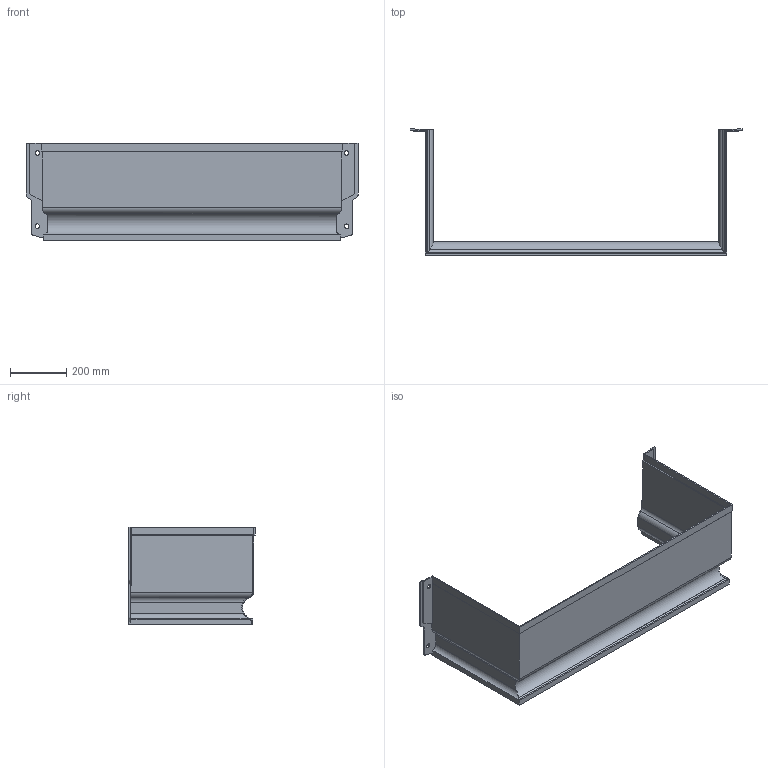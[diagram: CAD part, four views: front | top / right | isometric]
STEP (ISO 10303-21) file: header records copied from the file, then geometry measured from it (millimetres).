
FILE_DESCRIPTION(/* description */ (''),/* implementation_level */ '2;1');
FILE_NAME(/* name */ 'Q:\sge-bs-neu-2008\Marketing\CAD Zeichnungen\3D-CAD-Daten\3D Daten Website\- MEA Multinorm Aufsatz Kunststofflichtschacht_\Step\MEA_MULTINORM_Aufsatz_100x35x40.stp',/* time_stamp */ '2019-02-14T13:20:24+01:00',/* author */ ('avgrahammj'),/* organization */ (''),/* preprocessor_version */ 'ST-DEVELOPER v16.1',/* originating_system */ 'Autodesk Inventor 2016',/* authorisation */ '');
FILE_SCHEMA (('AUTOMOTIVE_DESIGN { 1 0 10303 214 3 1 1 }'));
Length unit declared in the file: centimetre
Products named in the file (1): MEA_MULTINORM_Aufsatz_100x35x40
Bounding box: 1180 x 448 x 347 mm (x, y, z)
Volume: 3022334.7 mm3; surface area: 1531104.5 mm2
Topology: 1 solids, 1 shells, 86 faces, 247 edges, 163 vertices
Faces by surface type: plane 58, cylinder 28
Full cylindrical faces by diameter (mm): 16 x4
Entity records: 2947 total; most frequent: CARTESIAN_POINT 681, ORIENTED_EDGE 480, DIRECTION 436, EDGE_CURVE 240, LINE 178, VECTOR 178, VERTEX_POINT 160, AXIS2_PLACEMENT_3D 129
